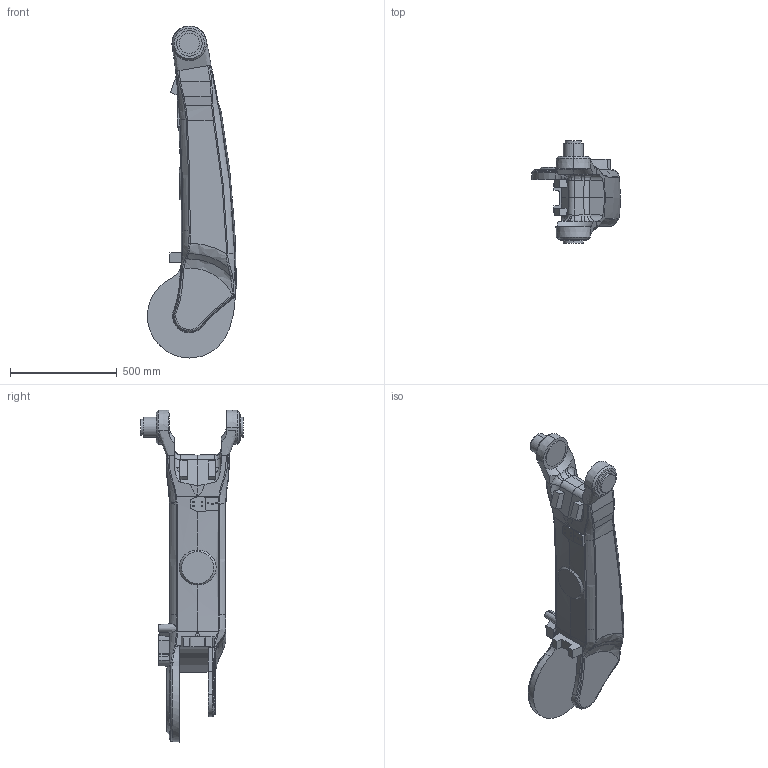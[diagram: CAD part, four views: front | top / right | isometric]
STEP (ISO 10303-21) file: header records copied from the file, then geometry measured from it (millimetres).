
FILE_DESCRIPTION (( 'STEP AP214' ), '1' );
FILE_NAME ('IRB760_445-318_LINK2_CAD_rev01.STEP', '2020-01-31T12:24:26', ( '' ), ( '' ), 'SwSTEP 2.0', 'SolidWorks 2018', '' );
FILE_SCHEMA (( 'AUTOMOTIVE_DESIGN' ));
Length unit declared in the file: millimetre
Products named in the file (2): IRB760_445-318_LINK2_CAD_rev01
Bounding box: 418.39 x 479.5 x 1558.5 mm (x, y, z)
Volume: 66313170.2 mm3; surface area: 1700167.2 mm2
Topology: 1 solids, 1 shells, 324 faces, 834 edges, 528 vertices
Faces by surface type: bspline 136, plane 105, cylinder 46, cone 37
Entity records: 41253 total; most frequent: CARTESIAN_POINT 30938, ORIENTED_EDGE 1668, DIRECTION 1022, EDGE_CURVE 834, VERTEX_POINT 528, AXIS2_PLACEMENT_3D 385, B_SPLINE_CURVE_WITH_KNOTS 364, EDGE_LOOP 340
